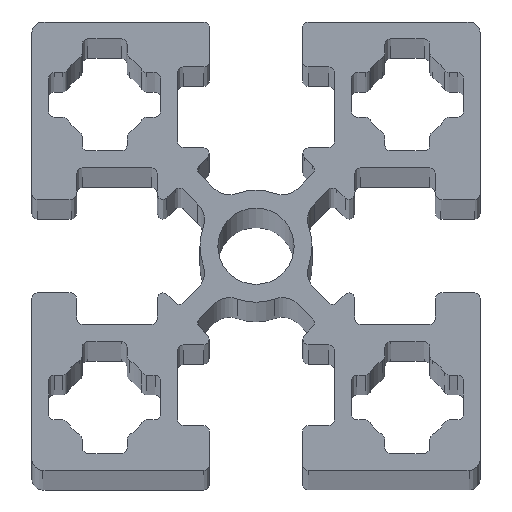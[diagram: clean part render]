
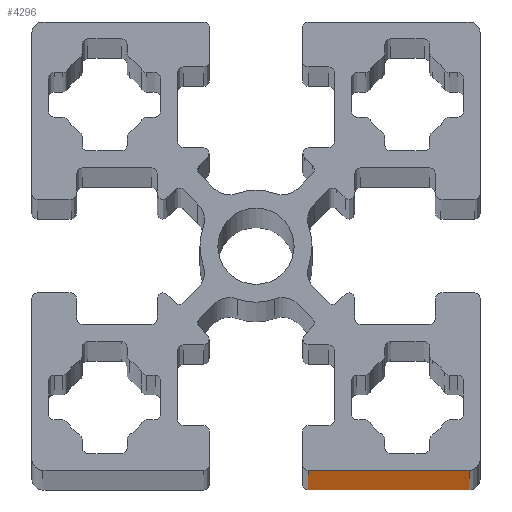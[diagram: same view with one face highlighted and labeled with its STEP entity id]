
A CAD part, top view. The second image highlights one B-rep face of the part: STEP entity #4296.
In plain terms, the highlighted planar face has unit normal (0, -1, 0).
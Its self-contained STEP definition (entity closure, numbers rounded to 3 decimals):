
#4231=CARTESIAN_POINT('',(289.,150.,1000.0));
#4232=VERTEX_POINT('',#4231);
#4240=CARTESIAN_POINT('',(289.,150.,0.0));
#4241=VERTEX_POINT('',#4240);
#4242=CARTESIAN_POINT('',(289.,150.,0.0));
#4243=DIRECTION('',(0.0,0.0,1.0));
#4244=VECTOR('',#4243,1000.0);
#4245=LINE('',#4242,#4244);
#4246=EDGE_CURVE('',#4241,#4232,#4245,.T.);
#4266=CARTESIAN_POINT('',(289.,150.,0.0));
#4267=DIRECTION('',(0.0,-1.0,0.0));
#4268=DIRECTION('',(0.0,0.0,-1.0));
#4269=AXIS2_PLACEMENT_3D('',#4266,#4267,#4268);
#4270=PLANE('',#4269);
#4271=CARTESIAN_POINT('',(274.65,150.,1000.0));
#4272=VERTEX_POINT('',#4271);
#4273=CARTESIAN_POINT('',(289.,150.,1000.0));
#4274=DIRECTION('',(-1.0,0.0,0.0));
#4275=VECTOR('',#4274,14.35);
#4276=LINE('',#4273,#4275);
#4277=EDGE_CURVE('',#4232,#4272,#4276,.T.);
#4278=ORIENTED_EDGE('',*,*,#4277,.T.);
#4279=CARTESIAN_POINT('',(274.65,150.,0.0));
#4280=VERTEX_POINT('',#4279);
#4281=CARTESIAN_POINT('',(274.65,150.,0.0));
#4282=DIRECTION('',(0.0,0.0,1.0));
#4283=VECTOR('',#4282,1000.0);
#4284=LINE('',#4281,#4283);
#4285=EDGE_CURVE('',#4280,#4272,#4284,.T.);
#4286=ORIENTED_EDGE('',*,*,#4285,.F.);
#4287=CARTESIAN_POINT('',(289.,150.,0.0));
#4288=DIRECTION('',(-1.0,0.0,0.0));
#4289=VECTOR('',#4288,14.35);
#4290=LINE('',#4287,#4289);
#4291=EDGE_CURVE('',#4241,#4280,#4290,.T.);
#4292=ORIENTED_EDGE('',*,*,#4291,.F.);
#4293=ORIENTED_EDGE('',*,*,#4246,.T.);
#4294=EDGE_LOOP('',(#4278,#4286,#4292,#4293));
#4295=FACE_OUTER_BOUND('',#4294,.T.);
#4296=ADVANCED_FACE('',(#4295),#4270,.T.);
